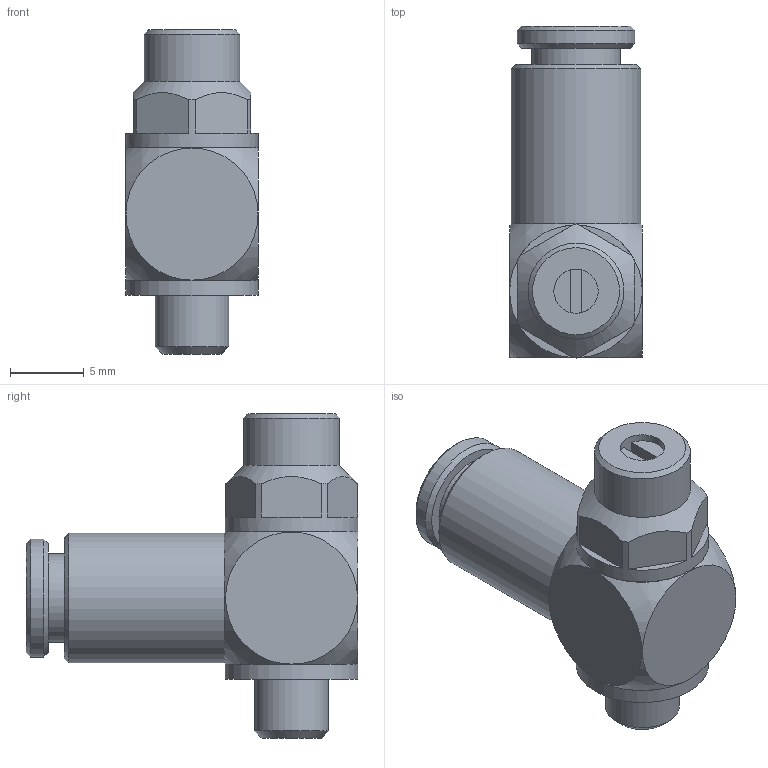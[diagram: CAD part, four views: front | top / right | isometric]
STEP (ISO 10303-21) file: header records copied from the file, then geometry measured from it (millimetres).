
FILE_DESCRIPTION(/* description */ ('MICROREG. DI FLUSSO #DIR. M5 T.3.17'),/* implementation_level */ '2;1');
FILE_NAME(/* name */ 'I:\Area Tecnica\Disegni\VARIE-3D\Componenti\600\6_01_###_###\6_01_315_##.stp',/* time_stamp */ '2017-01-04T08:25:40+01:00',/* author */ ('maniean1'),/* organization */ ('Pneumax S.p.A.'),/* preprocessor_version */ 'ST-DEVELOPER v15.2',/* originating_system */ 'Autodesk Inventor 2014',/* authorisation */ '');
FILE_SCHEMA (('AUTOMOTIVE_DESIGN { 1 0 10303 214 3 1 1 }'));
Length unit declared in the file: millimetre
Products named in the file (1): 6_01_315_##
Bounding box: 9 x 22.5 x 22 mm (x, y, z)
Volume: 1860 mm3; surface area: 1232.4 mm2
Topology: 1 solids, 1 shells, 46 faces, 97 edges, 63 vertices
Faces by surface type: plane 29, cylinder 9, cone 7, sphere 1
Full cylindrical faces by diameter (mm): 3 x1, 3.17 x1, 5 x1, 6 x1, 6.5 x1, 8 x1, 8.8 x1, 9 x2
Entity records: 1203 total; most frequent: DIRECTION 206, CARTESIAN_POINT 193, ORIENTED_EDGE 150, AXIS2_PLACEMENT_3D 90, EDGE_CURVE 75, EDGE_LOOP 74, VERTEX_POINT 59, STYLED_ITEM 47
